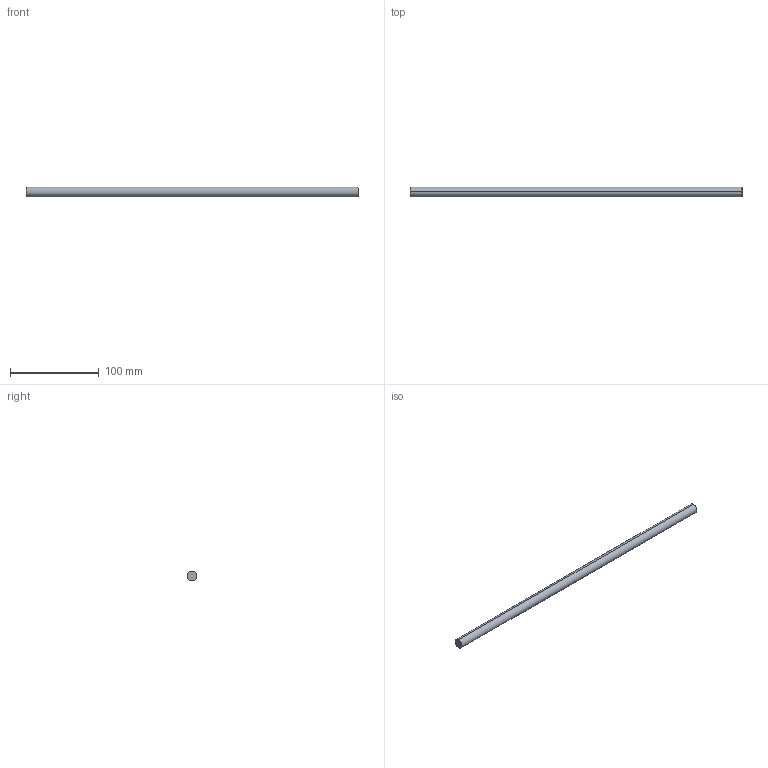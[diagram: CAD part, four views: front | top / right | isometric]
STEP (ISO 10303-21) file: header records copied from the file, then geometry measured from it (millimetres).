
FILE_DESCRIPTION (( 'STEP AP214' ), '1' );
FILE_NAME ('Querreling_2S-Rel_7102_KAB-475.step', '2010-09-22T15:05:52', ( 'grass' ), ( '' ), 'SwSTEP 2.0', 'SolidWorks 2010', '' );
FILE_SCHEMA (( 'AUTOMOTIVE_DESIGN' ));
Length unit declared in the file: millimetre
Products named in the file (1): Querreling_2S-Rel_7102_KAB-475
Bounding box: 374 x 11 x 11 mm (x, y, z)
Volume: 35542.4 mm3; surface area: 13114.6 mm2
Topology: 1 solids, 1 shells, 4 faces, 6 edges, 4 vertices
Faces by surface type: cylinder 2, plane 2
Entity records: 128 total; most frequent: DIRECTION 20, CARTESIAN_POINT 15, ORIENTED_EDGE 12, AXIS2_PLACEMENT_3D 9, EDGE_CURVE 6, VERTEX_POINT 4, EDGE_LOOP 4, CIRCLE 4
